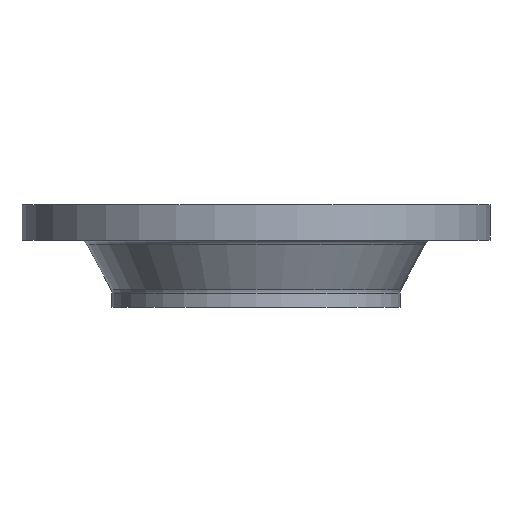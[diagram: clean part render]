
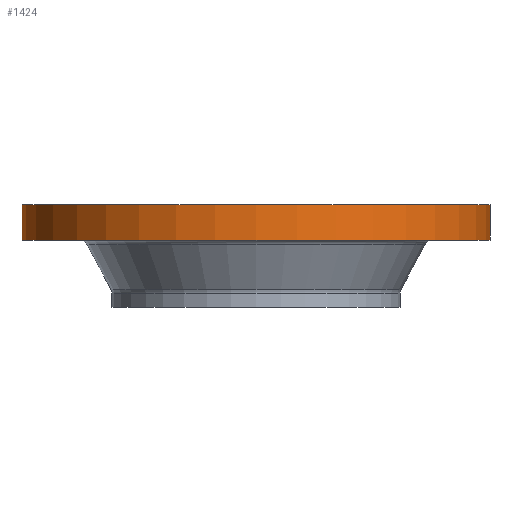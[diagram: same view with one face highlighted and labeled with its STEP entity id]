
A CAD part, front view. The second image highlights one B-rep face of the part: STEP entity #1424.
In plain terms, the highlighted cylindrical face has radius 330 mm (diameter 660 mm), a partial arc.
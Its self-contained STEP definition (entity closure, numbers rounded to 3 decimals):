
#31 = FACE_OUTER_BOUND ( 'NONE', #1002, .T. ) ;
#106 = CARTESIAN_POINT ( 'NONE',  ( -330., 0., 0. ) ) ;
#113 = DIRECTION ( 'NONE',  ( 1., 0., 0. ) ) ;
#115 = DIRECTION ( 'NONE',  ( 0., 0., 1. ) ) ;
#118 = CARTESIAN_POINT ( 'NONE',  ( 0., 0., -50. ) ) ;
#130 = EDGE_CURVE ( 'NONE', #1210, #1528, #856, .T. ) ;
#168 = VECTOR ( 'NONE', #854, 1000. ) ;
#281 = DIRECTION ( 'NONE',  ( 1., 0., 0. ) ) ;
#283 = DIRECTION ( 'NONE',  ( 0., 0., 1. ) ) ;
#284 = CARTESIAN_POINT ( 'NONE',  ( 0., 0., -145. ) ) ;
#286 = CYLINDRICAL_SURFACE ( 'NONE', #1232, 330. ) ;
#319 = CARTESIAN_POINT ( 'NONE',  ( 330., 0., 0. ) ) ;
#347 = CARTESIAN_POINT ( 'NONE',  ( -330., 0., -50. ) ) ;
#410 = DIRECTION ( 'NONE',  ( 1., 0., 0. ) ) ;
#411 = DIRECTION ( 'NONE',  ( 0., 0., 1. ) ) ;
#412 = CARTESIAN_POINT ( 'NONE',  ( 0., 0., 0. ) ) ;
#480 = CARTESIAN_POINT ( 'NONE',  ( 330., 0., -50. ) ) ;
#488 = EDGE_CURVE ( 'NONE', #997, #1239, #668, .T. ) ;
#620 = CIRCLE ( 'NONE', #624, 330. ) ;
#624 = AXIS2_PLACEMENT_3D ( 'NONE', #118, #115, #113 ) ;
#665 = DIRECTION ( 'NONE',  ( 0., 0., 1. ) ) ;
#667 = CARTESIAN_POINT ( 'NONE',  ( 330., 0., -145. ) ) ;
#668 = LINE ( 'NONE', #667, #824 ) ;
#824 = VECTOR ( 'NONE', #665, 1000. ) ;
#854 = DIRECTION ( 'NONE',  ( 0., 0., 1. ) ) ;
#855 = CARTESIAN_POINT ( 'NONE',  ( -330., 0., -145. ) ) ;
#856 = LINE ( 'NONE', #855, #168 ) ;
#997 = VERTEX_POINT ( 'NONE', #480 ) ;
#1002 = EDGE_LOOP ( 'NONE', ( #1359, #1360, #1361, #1362 ) ) ;
#1023 = CIRCLE ( 'NONE', #1053, 330. ) ;
#1053 = AXIS2_PLACEMENT_3D ( 'NONE', #412, #411, #410 ) ;
#1134 = EDGE_CURVE ( 'NONE', #1528, #1239, #1023, .T. ) ;
#1210 = VERTEX_POINT ( 'NONE', #347 ) ;
#1232 = AXIS2_PLACEMENT_3D ( 'NONE', #284, #283, #281 ) ;
#1239 = VERTEX_POINT ( 'NONE', #319 ) ;
#1359 = ORIENTED_EDGE ( 'NONE', *, *, #130, .F. ) ;
#1360 = ORIENTED_EDGE ( 'NONE', *, *, #1525, .T. ) ;
#1361 = ORIENTED_EDGE ( 'NONE', *, *, #488, .T. ) ;
#1362 = ORIENTED_EDGE ( 'NONE', *, *, #1134, .F. ) ;
#1424 = ADVANCED_FACE ( 'NONE', ( #31 ), #286, .T. ) ;
#1525 = EDGE_CURVE ( 'NONE', #1210, #997, #620, .T. ) ;
#1528 = VERTEX_POINT ( 'NONE', #106 ) ;
